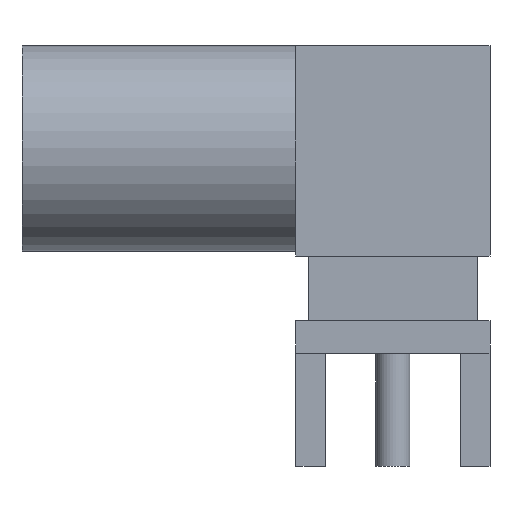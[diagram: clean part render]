
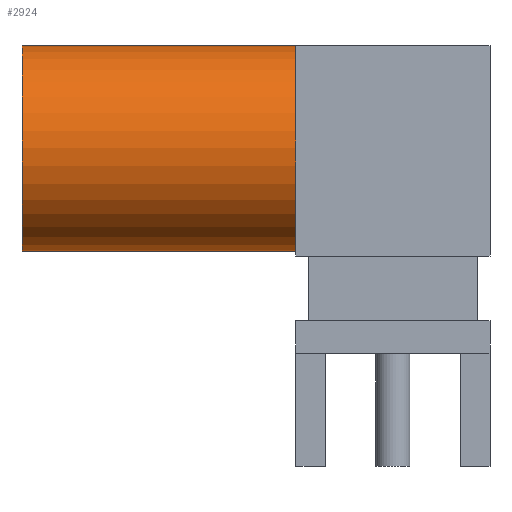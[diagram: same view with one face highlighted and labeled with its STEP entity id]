
A CAD part, left-side view. The second image highlights one B-rep face of the part: STEP entity #2924.
In plain terms, the highlighted cylindrical face has radius 3.175 mm (diameter 6.35 mm), a full revolution.
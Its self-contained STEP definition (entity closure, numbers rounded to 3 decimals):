
#2924 = ADVANCED_FACE('',(#2925),#2939,.T.);
#2925 = FACE_BOUND('',#2926,.F.);
#2926 = EDGE_LOOP('',(#2927,#2957,#2984,#2985));
#2927 = ORIENTED_EDGE('',*,*,#2928,.T.);
#2928 = EDGE_CURVE('',#2929,#2931,#2933,.T.);
#2929 = VERTEX_POINT('',#2930);
#2930 = CARTESIAN_POINT('',(3.175,3.,6.325));
#2931 = VERTEX_POINT('',#2932);
#2932 = CARTESIAN_POINT('',(3.175,11.46,6.325));
#2933 = SEAM_CURVE('',#2934,(#2938,#2950),.PCURVE_S1.);
#2934 = LINE('',#2935,#2936);
#2935 = CARTESIAN_POINT('',(3.175,3.,6.325));
#2936 = VECTOR('',#2937,1.);
#2937 = DIRECTION('',(0.,1.,0.));
#2938 = PCURVE('',#2939,#2944);
#2939 = CYLINDRICAL_SURFACE('',#2940,3.175);
#2940 = AXIS2_PLACEMENT_3D('',#2941,#2942,#2943);
#2941 = CARTESIAN_POINT('',(0.,3.,6.325));
#2942 = DIRECTION('',(-0.,-1.,0.));
#2943 = DIRECTION('',(1.,0.,0.));
#2944 = DEFINITIONAL_REPRESENTATION('',(#2945),#2949);
#2945 = LINE('',#2946,#2947);
#2946 = CARTESIAN_POINT('',(-0.,0.));
#2947 = VECTOR('',#2948,1.);
#2948 = DIRECTION('',(-0.,-1.));
#2949 = ( GEOMETRIC_REPRESENTATION_CONTEXT(2) 
PARAMETRIC_REPRESENTATION_CONTEXT() REPRESENTATION_CONTEXT('2D SPACE',''
  ) );
#2950 = PCURVE('',#2939,#2951);
#2951 = DEFINITIONAL_REPRESENTATION('',(#2952),#2956);
#2952 = LINE('',#2953,#2954);
#2953 = CARTESIAN_POINT('',(-6.283,0.));
#2954 = VECTOR('',#2955,1.);
#2955 = DIRECTION('',(-0.,-1.));
#2956 = ( GEOMETRIC_REPRESENTATION_CONTEXT(2) 
PARAMETRIC_REPRESENTATION_CONTEXT() REPRESENTATION_CONTEXT('2D SPACE',''
  ) );
#2957 = ORIENTED_EDGE('',*,*,#2958,.T.);
#2958 = EDGE_CURVE('',#2931,#2931,#2959,.T.);
#2959 = SURFACE_CURVE('',#2960,(#2965,#2972),.PCURVE_S1.);
#2960 = CIRCLE('',#2961,3.175);
#2961 = AXIS2_PLACEMENT_3D('',#2962,#2963,#2964);
#2962 = CARTESIAN_POINT('',(0.,11.46,6.325));
#2963 = DIRECTION('',(-0.,1.,0.));
#2964 = DIRECTION('',(1.,0.,0.));
#2965 = PCURVE('',#2939,#2966);
#2966 = DEFINITIONAL_REPRESENTATION('',(#2967),#2971);
#2967 = LINE('',#2968,#2969);
#2968 = CARTESIAN_POINT('',(-0.,-8.46));
#2969 = VECTOR('',#2970,1.);
#2970 = DIRECTION('',(-1.,0.));
#2971 = ( GEOMETRIC_REPRESENTATION_CONTEXT(2) 
PARAMETRIC_REPRESENTATION_CONTEXT() REPRESENTATION_CONTEXT('2D SPACE',''
  ) );
#2972 = PCURVE('',#2973,#2978);
#2973 = PLANE('',#2974);
#2974 = AXIS2_PLACEMENT_3D('',#2975,#2976,#2977);
#2975 = CARTESIAN_POINT('',(0.,11.46,6.325));
#2976 = DIRECTION('',(0.,1.,0.));
#2977 = DIRECTION('',(1.,0.,0.));
#2978 = DEFINITIONAL_REPRESENTATION('',(#2979),#2983);
#2979 = CIRCLE('',#2980,3.175);
#2980 = AXIS2_PLACEMENT_2D('',#2981,#2982);
#2981 = CARTESIAN_POINT('',(0.,0.));
#2982 = DIRECTION('',(1.,0.));
#2983 = ( GEOMETRIC_REPRESENTATION_CONTEXT(2) 
PARAMETRIC_REPRESENTATION_CONTEXT() REPRESENTATION_CONTEXT('2D SPACE',''
  ) );
#2984 = ORIENTED_EDGE('',*,*,#2928,.F.);
#2985 = ORIENTED_EDGE('',*,*,#2986,.F.);
#2986 = EDGE_CURVE('',#2929,#2929,#2987,.T.);
#2987 = SURFACE_CURVE('',#2988,(#2993,#3000),.PCURVE_S1.);
#2988 = CIRCLE('',#2989,3.175);
#2989 = AXIS2_PLACEMENT_3D('',#2990,#2991,#2992);
#2990 = CARTESIAN_POINT('',(0.,3.,6.325));
#2991 = DIRECTION('',(-0.,1.,0.));
#2992 = DIRECTION('',(1.,0.,0.));
#2993 = PCURVE('',#2939,#2994);
#2994 = DEFINITIONAL_REPRESENTATION('',(#2995),#2999);
#2995 = LINE('',#2996,#2997);
#2996 = CARTESIAN_POINT('',(-0.,0.));
#2997 = VECTOR('',#2998,1.);
#2998 = DIRECTION('',(-1.,0.));
#2999 = ( GEOMETRIC_REPRESENTATION_CONTEXT(2) 
PARAMETRIC_REPRESENTATION_CONTEXT() REPRESENTATION_CONTEXT('2D SPACE',''
  ) );
#3000 = PCURVE('',#3001,#3006);
#3001 = PLANE('',#3002);
#3002 = AXIS2_PLACEMENT_3D('',#3003,#3004,#3005);
#3003 = CARTESIAN_POINT('',(0.,3.,6.325));
#3004 = DIRECTION('',(0.,1.,0.));
#3005 = DIRECTION('',(1.,0.,0.));
#3006 = DEFINITIONAL_REPRESENTATION('',(#3007),#3011);
#3007 = CIRCLE('',#3008,3.175);
#3008 = AXIS2_PLACEMENT_2D('',#3009,#3010);
#3009 = CARTESIAN_POINT('',(0.,0.));
#3010 = DIRECTION('',(1.,0.));
#3011 = ( GEOMETRIC_REPRESENTATION_CONTEXT(2) 
PARAMETRIC_REPRESENTATION_CONTEXT() REPRESENTATION_CONTEXT('2D SPACE',''
  ) );
